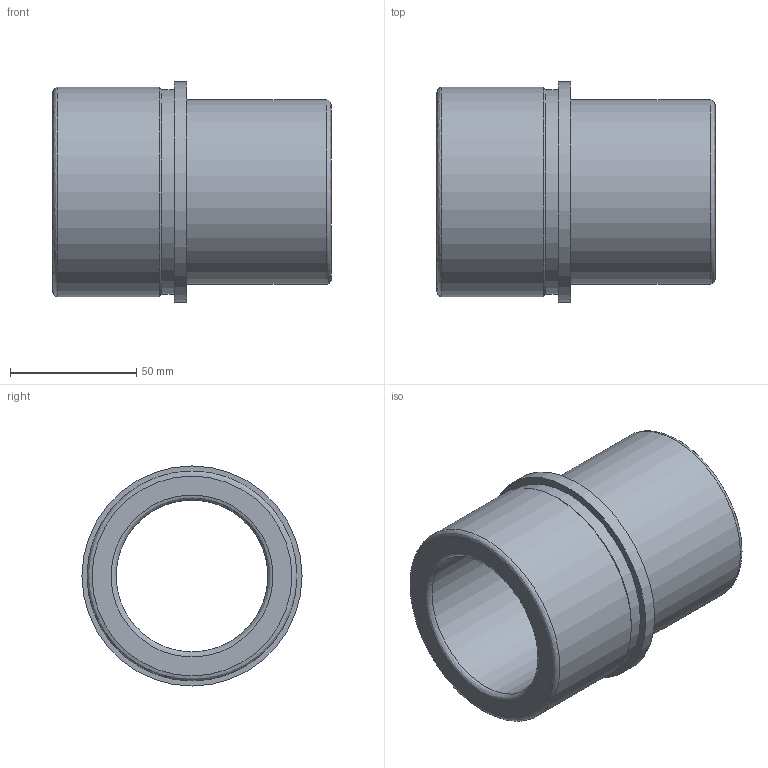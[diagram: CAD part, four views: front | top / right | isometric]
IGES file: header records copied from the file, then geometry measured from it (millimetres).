
Start section: Data from Parasolid IGES Translator 20.0.26, Copyright(c) 2006 Siemens P LM Software. All Rights Reserved.
Global section: file name: WZ - 4053 52 x 110 - 60.igs; native system: By Siemens PLM Incorporated; preprocessor: XPlus GENERIC/IGES 20.0.26; author: Noname; organization: Noname; date: 20201206.144607; units: millimetre
Bounding box: 110 x 87 x 87 mm (x, y, z)
Surface area: 53509.4 mm2 (no closed solid volume)
Topology: 0 solids, 0 shells, 14 faces, 52 edges, 37 vertices
Faces by surface type: revolution 10, extrusion 4
